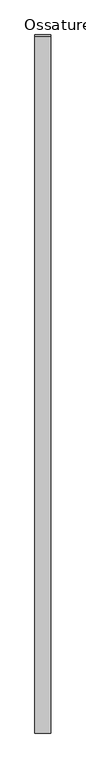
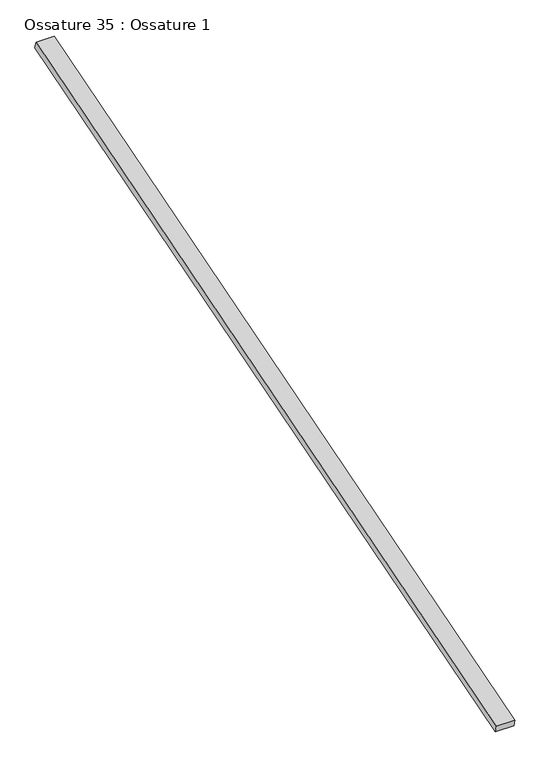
"""IFC4 building model written with IfcOpenShell, lengths in millimetres: beam geometry, Ossature 35 : Ossature 1."""

from ifc_helpers import new_model, si_unit, frame, origin, place, context, project, spatial, polyline, outline, extrude, source, transform, mapped, element, save


def ossature_35_ossature_1_a900a6bd(model_context):
    return source(origin(), model_context, "Body", "SweptSolid", [
        extrude(outline(polyline([(0.0, 0.0), (0.0, -4543.0299679), (-100.0, -4543.0299679), (-100.0, 0.0), (0.0, 0.0)])), frame((8638.6466393, -833.3913565, 8153.6336115), z_axis=(0.0, -0.28734788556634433, 0.9578262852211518), x_axis=(-1.0, 0.0, 0.0)), (0.0, 0.0, 1.0), 40.0),
    ])


if __name__ == "__main__":
    model = new_model("IFC4")
    model_context = context("Model", 3, world=origin())
    ifc_project = project(units=[si_unit("LENGTHUNIT", "METRE", prefix="MILLI")], contexts=[model_context])
    site = spatial("IfcSite", under=ifc_project)
    building = spatial("IfcBuilding", under=site)
    placement = place(None, origin())
    ossature_35_ossature_1_shape = ossature_35_ossature_1_a900a6bd(model_context)
    element("IfcBeam", 1, ObjectType="Ossature 35 : Ossature 1", at=placement, inside=building, context=model_context, shape_type="MappedRepresentation", body=[
        mapped(ossature_35_ossature_1_shape, transform((0.0, 0.0, 0.0), x_axis=(1.0, 0.0, 0.0), y_axis=(0.0, 1.0, 0.0), z_axis=(0.0, 0.0, 1.0))),
    ])
    save(model, "model.ifc")
